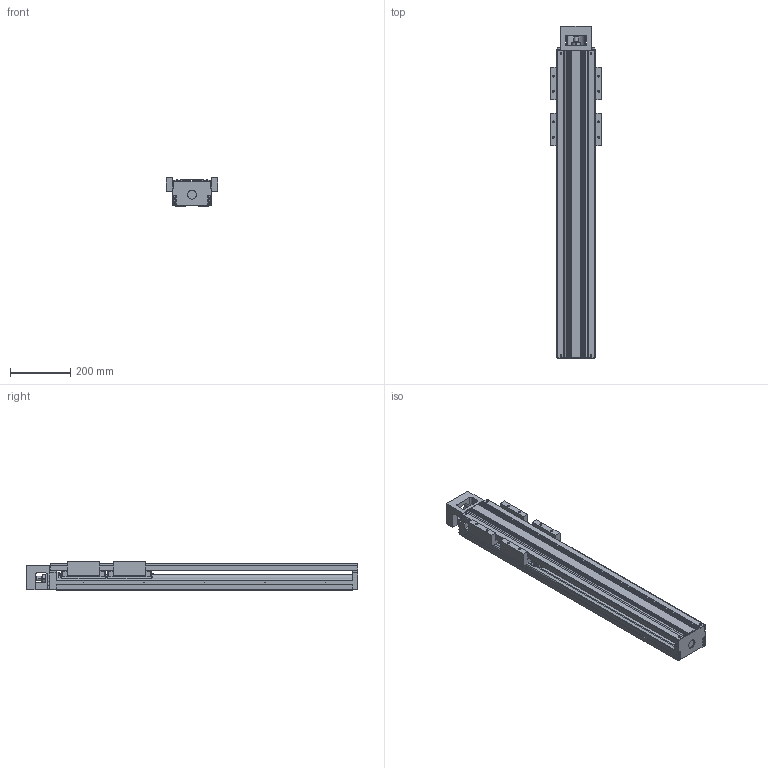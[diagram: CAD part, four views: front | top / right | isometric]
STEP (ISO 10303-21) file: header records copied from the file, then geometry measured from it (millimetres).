
FILE_DESCRIPTION(('no description'),'unknown implementation level');
FILE_NAME('KK13025P980A2F0C00_FILE_9.stp',' ',('HIWIN GmbH'),('CADClick - KiM GmbH - www.kimweb.de'),'unknown preprocess','ACIS','unknown authorization');
FILE_SCHEMA(('automotive_design'));
Length unit declared in the file: millimetre
Products named in the file (3): KK13025P980A2F0C00_FILE_1; KK130_FILE; KK13025P980A2F0C00_FILE
Bounding box: 170 x 1098 x 94 mm (x, y, z)
Volume: 6273103.1 mm3; surface area: 1163944.8 mm2
Topology: 3 solids, 17 shells, 1260 faces, 3180 edges, 2048 vertices
Faces by surface type: plane 798, cylinder 398, torus 52, cone 8, sphere 4
Entity records: 74298 total; most frequent: CARTESIAN_POINT 6703, DIRECTION 6698, STYLED_ITEM 6487, PRESENTATION_STYLE_ASSIGNMENT 6487, COLOUR_RGB 6487, ORIENTED_EDGE 6352, EDGE_CURVE 3176, CURVE_STYLE 3176
